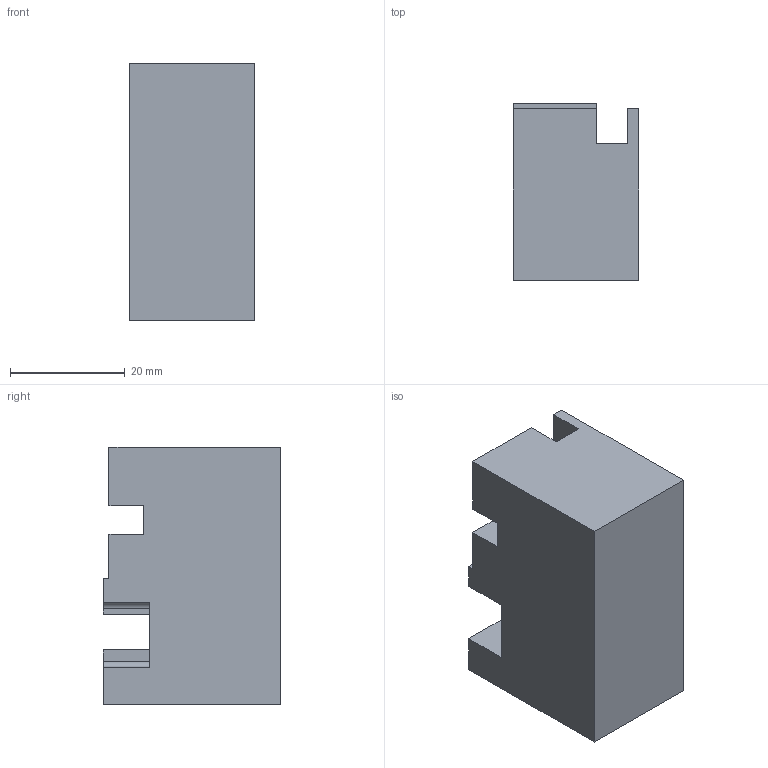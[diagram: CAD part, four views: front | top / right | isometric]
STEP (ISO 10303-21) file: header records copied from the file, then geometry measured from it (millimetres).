
FILE_DESCRIPTION(('CATIA V5 STEP Exchange'),'2;1');
FILE_NAME('G:\够快云库\系统集成开发部\1.部门成员\孙国\工装\手动插管\STP\V3\GZ-SDCG11_V3 接头固定座.stp','2021-02-27T01:14:25+00:00',('none'),('none'),'CATIA Version 5 Release 20 GA (IN-10)','CATIA V5 STEP AP214','none');
FILE_SCHEMA(('AUTOMOTIVE_DESIGN { 1 0 10303 214 1 1 1 1 }'));
Length unit declared in the file: millimetre
Products named in the file (1): 阀体固定座
Bounding box: 22 x 31 x 45 mm (x, y, z)
Volume: 26072.1 mm3; surface area: 6678.9 mm2
Topology: 1 solids, 1 shells, 41 faces, 111 edges, 74 vertices
Faces by surface type: plane 33, cylinder 8
Entity records: 1232 total; most frequent: ORIENTED_EDGE 222, CARTESIAN_POINT 216, DIRECTION 171, EDGE_CURVE 111, VECTOR 95, LINE 95, VERTEX_POINT 74, AXIS2_PLACEMENT_3D 47
